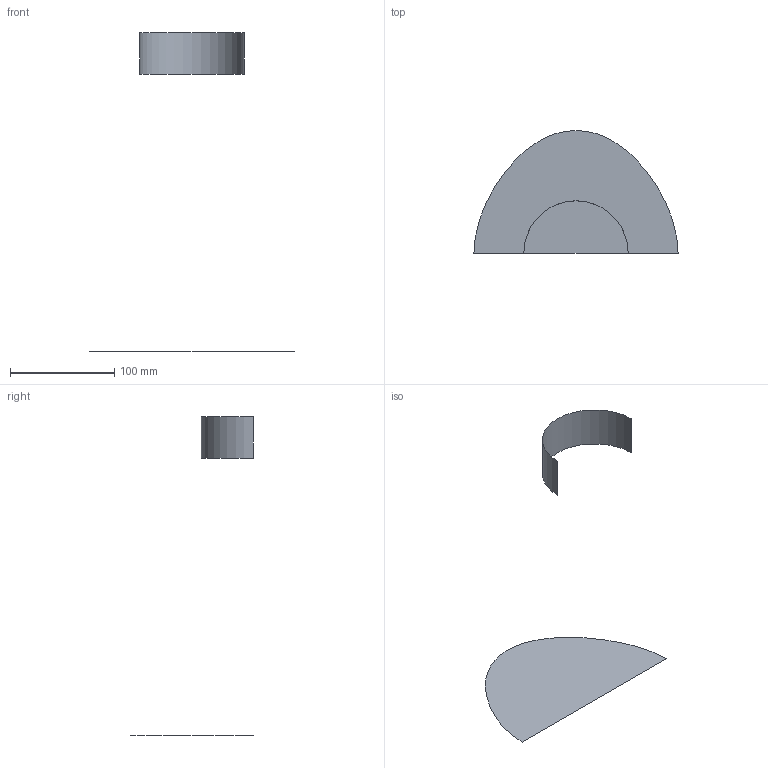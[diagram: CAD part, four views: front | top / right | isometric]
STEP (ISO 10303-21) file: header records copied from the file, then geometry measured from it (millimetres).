
FILE_DESCRIPTION(('CATIA V5 STEP Exchange'),'2;1');
FILE_NAME('C:\_Andres\UNIVERSIDAD\IQS\ASIGNATURAS\DAO\Controles\1617\c1\1original\dAndrea_Torrejon_Ej00-base_v8.stp','2017-02-06T16:27:35+00:00',('none'),('none'),'CATIA Version 5-6 Release 2014 SP1 HF18','CATIA V5 STEP AP203','none');
FILE_SCHEMA(('CONFIG_CONTROL_DESIGN'));
Length unit declared in the file: millimetre
Products named in the file (1): dAndrea_Torrejon_Ej00-base_v8
Bounding box: 196 x 118 x 306 mm (x, y, z)
Surface area: 23712.2 mm2 (no closed solid volume)
Topology: 0 solids, 2 shells, 2 faces, 16 edges, 26 vertices
Faces by surface type: cylinder 1, plane 1
Entity records: 230 total; most frequent: CARTESIAN_POINT 78, DIRECTION 16, COMPOSITE_CURVE_SEGMENT 9, TRIMMED_CURVE 9, AXIS2_PLACEMENT_3D 8, COMPOSITE_CURVE 7, ORIENTED_EDGE 7, EDGE_CURVE 7
